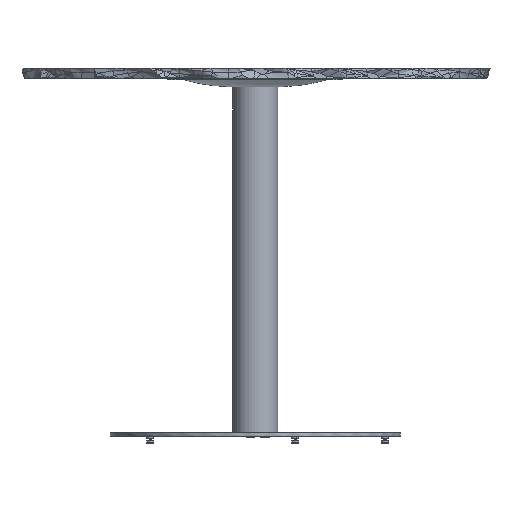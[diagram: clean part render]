
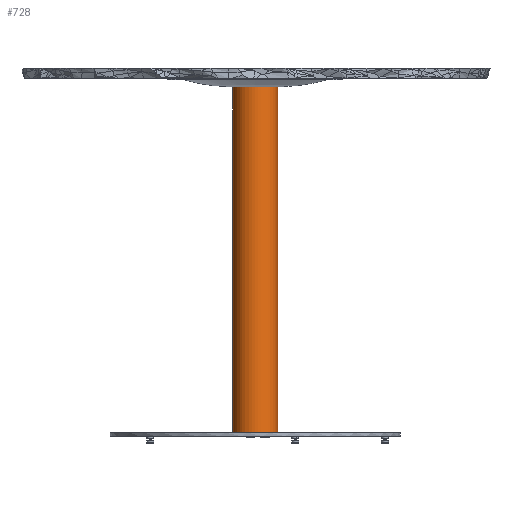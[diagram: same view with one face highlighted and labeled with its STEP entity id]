
A CAD part, front view. The second image highlights one B-rep face of the part: STEP entity #728.
In plain terms, the highlighted cylindrical face has radius 44.5 mm (diameter 89 mm), a partial arc.
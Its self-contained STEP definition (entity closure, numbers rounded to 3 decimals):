
#728=ADVANCED_FACE('',(#2803),#32556,.T.);
#2803=FACE_OUTER_BOUND('',#4884,.T.);
#4884=EDGE_LOOP('',(#8160,#8161,#8162,#8163));
#8160=ORIENTED_EDGE('',*,*,#17865,.T.);
#8161=ORIENTED_EDGE('',*,*,#17139,.T.);
#8162=ORIENTED_EDGE('',*,*,#17866,.F.);
#8163=ORIENTED_EDGE('',*,*,#17864,.F.);
#17139=EDGE_CURVE('',#27840,#27841,#26690,.T.);
#17864=EDGE_CURVE('',#28316,#28317,#26740,.T.);
#17865=EDGE_CURVE('',#28316,#27840,#26741,.T.);
#17866=EDGE_CURVE('',#28317,#27841,#26742,.T.);
#26690=(
BOUNDED_CURVE()
B_SPLINE_CURVE(1,(#52249,#52250),.UNSPECIFIED.,.F.,.F.)
B_SPLINE_CURVE_WITH_KNOTS((2,2),(0.,710.),.UNSPECIFIED.)
CURVE()
GEOMETRIC_REPRESENTATION_ITEM()
RATIONAL_B_SPLINE_CURVE((1.,1.))
REPRESENTATION_ITEM('')
);
#26740=(
BOUNDED_CURVE()
B_SPLINE_CURVE(1,(#60977,#60978),.UNSPECIFIED.,.F.,.F.)
B_SPLINE_CURVE_WITH_KNOTS((2,2),(0.,710.),.UNSPECIFIED.)
CURVE()
GEOMETRIC_REPRESENTATION_ITEM()
RATIONAL_B_SPLINE_CURVE((1.,1.))
REPRESENTATION_ITEM('')
);
#26741=(
BOUNDED_CURVE()
B_SPLINE_CURVE(2,(#60979,#60980,#60981,#60982,#60983),.UNSPECIFIED.,.F.,
 .F.)
B_SPLINE_CURVE_WITH_KNOTS((3,2,3),(98.96,148.44,197.92),
 .UNSPECIFIED.)
CURVE()
GEOMETRIC_REPRESENTATION_ITEM()
RATIONAL_B_SPLINE_CURVE((1.,0.707,1.,0.707,1.))
REPRESENTATION_ITEM('')
);
#26742=(
BOUNDED_CURVE()
B_SPLINE_CURVE(2,(#60984,#60985,#60986,#60987,#60988),.UNSPECIFIED.,.F.,
 .F.)
B_SPLINE_CURVE_WITH_KNOTS((3,2,3),(98.96,148.44,197.92),
 .UNSPECIFIED.)
CURVE()
GEOMETRIC_REPRESENTATION_ITEM()
RATIONAL_B_SPLINE_CURVE((1.,0.707,1.,0.707,1.))
REPRESENTATION_ITEM('')
);
#27840=VERTEX_POINT('',#51742);
#27841=VERTEX_POINT('',#51743);
#28316=VERTEX_POINT('',#52218);
#28317=VERTEX_POINT('',#52219);
#32556=CYLINDRICAL_SURFACE('',#33431,44.5);
#33431=AXIS2_PLACEMENT_3D('',#51717,#34710,$);
#34710=DIRECTION('',(0.,0.,1.));
#51717=CARTESIAN_POINT('',(0.,0.,362.));
#51742=CARTESIAN_POINT('',(44.5,0.,22.));
#51743=CARTESIAN_POINT('',(44.5,0.,702.));
#52218=CARTESIAN_POINT('',(-44.5,0.,22.));
#52219=CARTESIAN_POINT('',(-44.5,0.,702.));
#52249=CARTESIAN_POINT('',(44.5,0.,22.));
#52250=CARTESIAN_POINT('',(44.5,0.,702.));
#60977=CARTESIAN_POINT('',(-44.5,0.,22.));
#60978=CARTESIAN_POINT('',(-44.5,0.,702.));
#60979=CARTESIAN_POINT('',(-44.5,0.,22.));
#60980=CARTESIAN_POINT('',(-44.5,-44.5,22.));
#60981=CARTESIAN_POINT('',(0.,-44.5,22.));
#60982=CARTESIAN_POINT('',(44.5,-44.5,22.));
#60983=CARTESIAN_POINT('',(44.5,0.,22.));
#60984=CARTESIAN_POINT('',(-44.5,0.,702.));
#60985=CARTESIAN_POINT('',(-44.5,-44.5,702.));
#60986=CARTESIAN_POINT('',(0.,-44.5,702.));
#60987=CARTESIAN_POINT('',(44.5,-44.5,702.));
#60988=CARTESIAN_POINT('',(44.5,0.,702.));
